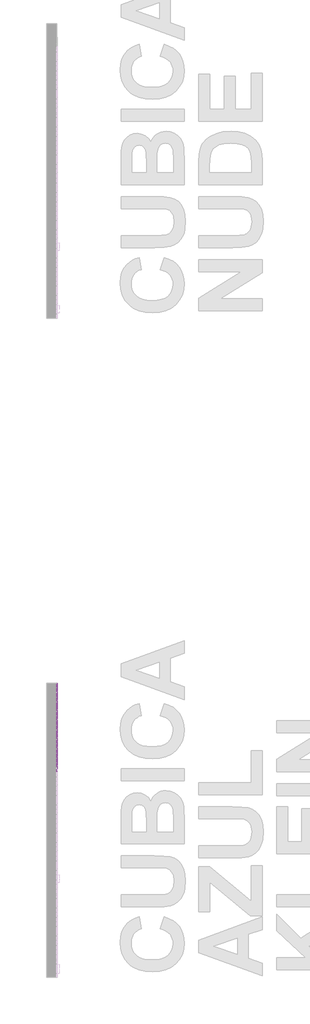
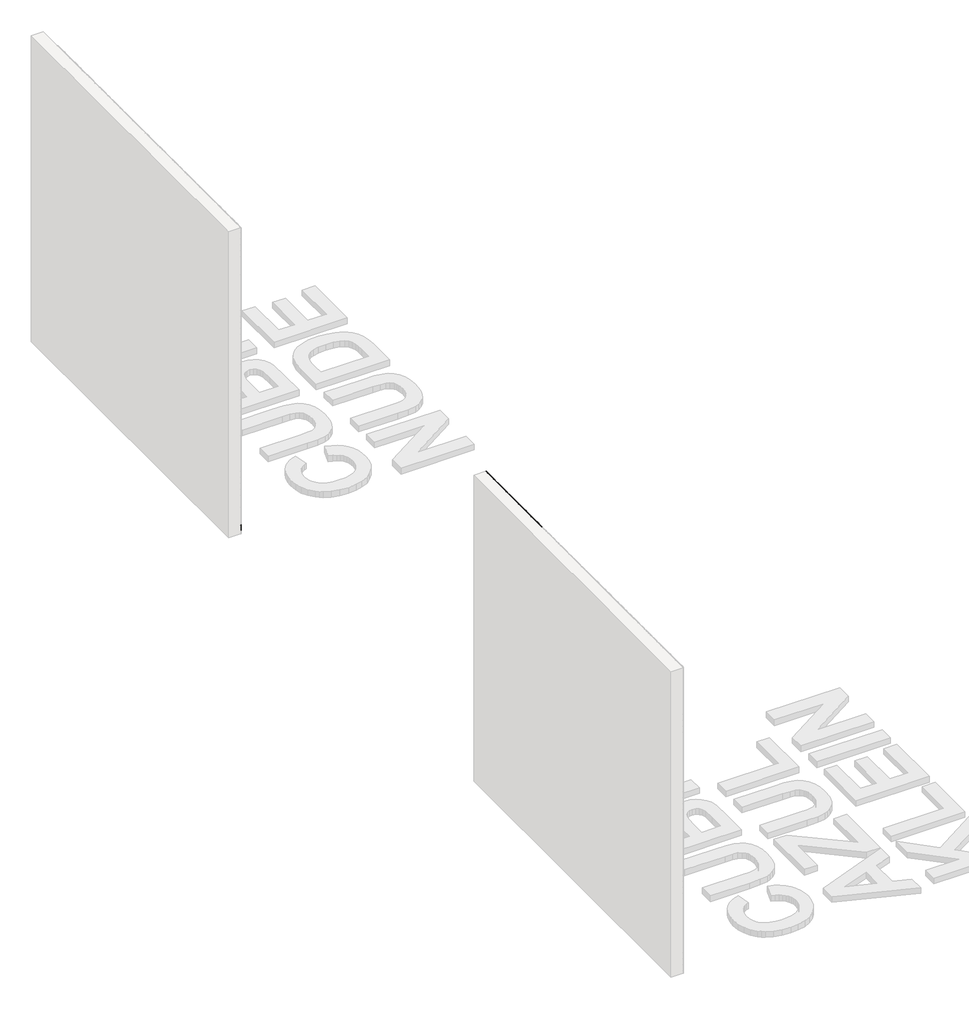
# One storey, part 48 of 121: 142 proxies.
"""IFC4 building model written with IfcOpenShell, lengths in millimetres."""

from ifc_helpers import new_model, si_unit, origin, place, context, project, spatial, transform, mapped, element, save
from components import generic_models_b2b2c5c1, generic_models_9bf73f6f, generic_models_5d175859, generic_models_65d4feed, generic_models_3c364290, generic_models_b652511d, generic_models_3c04e8e5, generic_models_b212a934, generic_models_61989c10, generic_models_7dea52c4, generic_models_39246dda, generic_models_336a48c1

model = new_model("IFC4")

# Units and contexts
model_context = context("Model", 3, world=origin())
ifc_project = project(units=[si_unit("LENGTHUNIT", "METRE", prefix="MILLI")], contexts=[model_context])

# Site, building, storey
site = spatial("IfcSite", under=ifc_project)
building = spatial("IfcBuilding", under=site)
storey = spatial("IfcBuildingStorey", under=building, Name="PORTOBELLO - SHOWROOM", Elevation=0.0)

# Proxies
placement = place(None, origin())
generic_models_shape = generic_models_b2b2c5c1(model_context)
element("IfcBuildingElementProxy", 1, Name="PBSHOP - CUBICA AZUL KLEIN 4,8X8,3 : CUBICA AZUL KLEIN - POSIÇÃO 01", ObjectType="PBSHOP - CUBICA AZUL KLEIN 4,8X8,3 : CUBICA AZUL KLEIN - POSIÇÃO 01", at=placement, inside=storey, context=model_context, shape_type="MappedRepresentation", body=[
    mapped(generic_models_shape, transform((150369.5341846, 2449.2080152, 2407.461318), x_axis=(0.0, 1.0, 0.0), y_axis=(0.0, 0.0, 1.0), z_axis=(1.0, 0.0, 0.0))),
])
element("IfcBuildingElementProxy", 2, Name="PBSHOP - CUBICA AZUL KLEIN 4,8X8,3 : CUBICA AZUL KLEIN - POSIÇÃO 01", ObjectType="PBSHOP - CUBICA AZUL KLEIN 4,8X8,3 : CUBICA AZUL KLEIN - POSIÇÃO 01", at=placement, inside=storey, context=model_context, shape_type="MappedRepresentation", body=[
    mapped(generic_models_shape, transform((150369.5341846, 2540.0472844, 2407.461318), x_axis=(0.0, 1.0, 0.0), y_axis=(0.0, 0.0, 1.0), z_axis=(1.0, 0.0, 0.0))),
])
element("IfcBuildingElementProxy", 3, Name="PBSHOP - CUBICA AZUL KLEIN 4,8X8,3 : CUBICA AZUL KLEIN - POSIÇÃO 01", ObjectType="PBSHOP - CUBICA AZUL KLEIN 4,8X8,3 : CUBICA AZUL KLEIN - POSIÇÃO 01", at=placement, inside=storey, context=model_context, shape_type="MappedRepresentation", body=[
    mapped(generic_models_shape, transform((150369.5341846, 2630.8865536, 2407.461318), x_axis=(0.0, 1.0, 0.0), y_axis=(0.0, 0.0, 1.0), z_axis=(1.0, 0.0, 0.0))),
])
element("IfcBuildingElementProxy", 4, Name="PBSHOP - CUBICA AZUL KLEIN 4,8X8,3 : CUBICA AZUL KLEIN - POSIÇÃO 01", ObjectType="PBSHOP - CUBICA AZUL KLEIN 4,8X8,3 : CUBICA AZUL KLEIN - POSIÇÃO 01", at=placement, inside=storey, context=model_context, shape_type="MappedRepresentation", body=[
    mapped(generic_models_shape, transform((150369.5341846, 2721.7258229, 2407.461318), x_axis=(0.0, 1.0, 0.0), y_axis=(0.0, 0.0, 1.0), z_axis=(1.0, 0.0, 0.0))),
])
element("IfcBuildingElementProxy", 5, Name="PBSHOP - CUBICA AZUL KLEIN 4,8X8,3 : CUBICA AZUL KLEIN - POSIÇÃO 01", ObjectType="PBSHOP - CUBICA AZUL KLEIN 4,8X8,3 : CUBICA AZUL KLEIN - POSIÇÃO 01", at=placement, inside=storey, context=model_context, shape_type="MappedRepresentation", body=[
    mapped(generic_models_shape, transform((150369.5341846, 2040.4313036, 2486.3959564), x_axis=(0.0, 1.0, 0.0), y_axis=(0.0, 0.0, 1.0), z_axis=(1.0, 0.0, 0.0))),
])
element("IfcBuildingElementProxy", 6, Name="PBSHOP - CUBICA AZUL KLEIN 4,8X8,3 : CUBICA AZUL KLEIN - POSIÇÃO 01", ObjectType="PBSHOP - CUBICA AZUL KLEIN 4,8X8,3 : CUBICA AZUL KLEIN - POSIÇÃO 01", at=placement, inside=storey, context=model_context, shape_type="MappedRepresentation", body=[
    mapped(generic_models_shape, transform((150369.5341846, 2131.2705728, 2486.3959564), x_axis=(0.0, 1.0, 0.0), y_axis=(0.0, 0.0, 1.0), z_axis=(1.0, 0.0, 0.0))),
])
element("IfcBuildingElementProxy", 7, Name="PBSHOP - CUBICA AZUL KLEIN 4,8X8,3 : CUBICA AZUL KLEIN - POSIÇÃO 01", ObjectType="PBSHOP - CUBICA AZUL KLEIN 4,8X8,3 : CUBICA AZUL KLEIN - POSIÇÃO 01", at=placement, inside=storey, context=model_context, shape_type="MappedRepresentation", body=[
    mapped(generic_models_shape, transform((150369.5341846, 2222.109842, 2486.3959564), x_axis=(0.0, 1.0, 0.0), y_axis=(0.0, 0.0, 1.0), z_axis=(1.0, 0.0, 0.0))),
])
element("IfcBuildingElementProxy", 8, Name="PBSHOP - CUBICA AZUL KLEIN 4,8X8,3 : CUBICA AZUL KLEIN - POSIÇÃO 01", ObjectType="PBSHOP - CUBICA AZUL KLEIN 4,8X8,3 : CUBICA AZUL KLEIN - POSIÇÃO 01", at=placement, inside=storey, context=model_context, shape_type="MappedRepresentation", body=[
    mapped(generic_models_shape, transform((150369.5341846, 2312.9491113, 2486.3959564), x_axis=(0.0, 1.0, 0.0), y_axis=(0.0, 0.0, 1.0), z_axis=(1.0, 0.0, 0.0))),
])
element("IfcBuildingElementProxy", 9, Name="PBSHOP - CUBICA AZUL KLEIN 4,8X8,3 : CUBICA AZUL KLEIN - POSIÇÃO 01", ObjectType="PBSHOP - CUBICA AZUL KLEIN 4,8X8,3 : CUBICA AZUL KLEIN - POSIÇÃO 01", at=placement, inside=storey, context=model_context, shape_type="MappedRepresentation", body=[
    mapped(generic_models_shape, transform((150369.5341846, 2403.7883805, 2486.3959564), x_axis=(0.0, 1.0, 0.0), y_axis=(0.0, 0.0, 1.0), z_axis=(1.0, 0.0, 0.0))),
])
element("IfcBuildingElementProxy", 10, Name="PBSHOP - CUBICA AZUL KLEIN 4,8X8,3 : CUBICA AZUL KLEIN - POSIÇÃO 01", ObjectType="PBSHOP - CUBICA AZUL KLEIN 4,8X8,3 : CUBICA AZUL KLEIN - POSIÇÃO 01", at=placement, inside=storey, context=model_context, shape_type="MappedRepresentation", body=[
    mapped(generic_models_shape, transform((150369.5341846, 2494.6276498, 2486.3959564), x_axis=(0.0, 1.0, 0.0), y_axis=(0.0, 0.0, 1.0), z_axis=(1.0, 0.0, 0.0))),
])
element("IfcBuildingElementProxy", 11, Name="PBSHOP - CUBICA AZUL KLEIN 4,8X8,3 : CUBICA AZUL KLEIN - POSIÇÃO 01", ObjectType="PBSHOP - CUBICA AZUL KLEIN 4,8X8,3 : CUBICA AZUL KLEIN - POSIÇÃO 01", at=placement, inside=storey, context=model_context, shape_type="MappedRepresentation", body=[
    mapped(generic_models_shape, transform((150369.5341846, 2585.466919, 2486.3959564), x_axis=(0.0, 1.0, 0.0), y_axis=(0.0, 0.0, 1.0), z_axis=(1.0, 0.0, 0.0))),
])
element("IfcBuildingElementProxy", 12, Name="PBSHOP - CUBICA AZUL KLEIN 4,8X8,3 : CUBICA AZUL KLEIN - POSIÇÃO 01", ObjectType="PBSHOP - CUBICA AZUL KLEIN 4,8X8,3 : CUBICA AZUL KLEIN - POSIÇÃO 01", at=placement, inside=storey, context=model_context, shape_type="MappedRepresentation", body=[
    mapped(generic_models_shape, transform((150369.5341846, 2676.3061883, 2486.3959564), x_axis=(0.0, 1.0, 0.0), y_axis=(0.0, 0.0, 1.0), z_axis=(1.0, 0.0, 0.0))),
])
element("IfcBuildingElementProxy", 13, Name="PBSHOP - CUBICA AZUL KLEIN 4,8X8,3 : CUBICA AZUL KLEIN - POSIÇÃO 01", ObjectType="PBSHOP - CUBICA AZUL KLEIN 4,8X8,3 : CUBICA AZUL KLEIN - POSIÇÃO 01", at=placement, inside=storey, context=model_context, shape_type="MappedRepresentation", body=[
    mapped(generic_models_shape, transform((150369.5341846, 2767.1454575, 2486.3959564), x_axis=(0.0, 1.0, 0.0), y_axis=(0.0, 0.0, 1.0), z_axis=(1.0, 0.0, 0.0))),
])
element("IfcBuildingElementProxy", 14, Name="PBSHOP - CUBICA AZUL KLEIN 4,8X8,3 : CUBICA AZUL KLEIN - POSIÇÃO 01", ObjectType="PBSHOP - CUBICA AZUL KLEIN 4,8X8,3 : CUBICA AZUL KLEIN - POSIÇÃO 01", at=placement, inside=storey, context=model_context, shape_type="MappedRepresentation", body=[
    mapped(generic_models_shape, transform((150369.5341846, 2085.8509382, 2565.3305948), x_axis=(0.0, 1.0, 0.0), y_axis=(0.0, 0.0, 1.0), z_axis=(1.0, 0.0, 0.0))),
])
element("IfcBuildingElementProxy", 15, Name="PBSHOP - CUBICA AZUL KLEIN 4,8X8,3 : CUBICA AZUL KLEIN - POSIÇÃO 01", ObjectType="PBSHOP - CUBICA AZUL KLEIN 4,8X8,3 : CUBICA AZUL KLEIN - POSIÇÃO 01", at=placement, inside=storey, context=model_context, shape_type="MappedRepresentation", body=[
    mapped(generic_models_shape, transform((150369.5341846, 2176.6902074, 2565.3305948), x_axis=(0.0, 1.0, 0.0), y_axis=(0.0, 0.0, 1.0), z_axis=(1.0, 0.0, 0.0))),
])
element("IfcBuildingElementProxy", 16, Name="PBSHOP - CUBICA AZUL KLEIN 4,8X8,3 : CUBICA AZUL KLEIN - POSIÇÃO 01", ObjectType="PBSHOP - CUBICA AZUL KLEIN 4,8X8,3 : CUBICA AZUL KLEIN - POSIÇÃO 01", at=placement, inside=storey, context=model_context, shape_type="MappedRepresentation", body=[
    mapped(generic_models_shape, transform((150369.5341846, 2267.5294767, 2565.3305948), x_axis=(0.0, 1.0, 0.0), y_axis=(0.0, 0.0, 1.0), z_axis=(1.0, 0.0, 0.0))),
])
element("IfcBuildingElementProxy", 17, Name="PBSHOP - CUBICA AZUL KLEIN 4,8X8,3 : CUBICA AZUL KLEIN - POSIÇÃO 01", ObjectType="PBSHOP - CUBICA AZUL KLEIN 4,8X8,3 : CUBICA AZUL KLEIN - POSIÇÃO 01", at=placement, inside=storey, context=model_context, shape_type="MappedRepresentation", body=[
    mapped(generic_models_shape, transform((150369.5341846, 2358.3687459, 2565.3305948), x_axis=(0.0, 1.0, 0.0), y_axis=(0.0, 0.0, 1.0), z_axis=(1.0, 0.0, 0.0))),
])
element("IfcBuildingElementProxy", 18, Name="PBSHOP - CUBICA AZUL KLEIN 4,8X8,3 : CUBICA AZUL KLEIN - POSIÇÃO 01", ObjectType="PBSHOP - CUBICA AZUL KLEIN 4,8X8,3 : CUBICA AZUL KLEIN - POSIÇÃO 01", at=placement, inside=storey, context=model_context, shape_type="MappedRepresentation", body=[
    mapped(generic_models_shape, transform((150369.5341846, 2449.2080152, 2565.3305948), x_axis=(0.0, 1.0, 0.0), y_axis=(0.0, 0.0, 1.0), z_axis=(1.0, 0.0, 0.0))),
])
element("IfcBuildingElementProxy", 19, Name="PBSHOP - CUBICA AZUL KLEIN 4,8X8,3 : CUBICA AZUL KLEIN - POSIÇÃO 01", ObjectType="PBSHOP - CUBICA AZUL KLEIN 4,8X8,3 : CUBICA AZUL KLEIN - POSIÇÃO 01", at=placement, inside=storey, context=model_context, shape_type="MappedRepresentation", body=[
    mapped(generic_models_shape, transform((150369.5341846, 2540.0472844, 2565.3305948), x_axis=(0.0, 1.0, 0.0), y_axis=(0.0, 0.0, 1.0), z_axis=(1.0, 0.0, 0.0))),
])
element("IfcBuildingElementProxy", 20, Name="PBSHOP - CUBICA AZUL KLEIN 4,8X8,3 : CUBICA AZUL KLEIN - POSIÇÃO 01", ObjectType="PBSHOP - CUBICA AZUL KLEIN 4,8X8,3 : CUBICA AZUL KLEIN - POSIÇÃO 01", at=placement, inside=storey, context=model_context, shape_type="MappedRepresentation", body=[
    mapped(generic_models_shape, transform((150369.5341846, 2630.8865536, 2565.3305948), x_axis=(0.0, 1.0, 0.0), y_axis=(0.0, 0.0, 1.0), z_axis=(1.0, 0.0, 0.0))),
])
element("IfcBuildingElementProxy", 21, Name="PBSHOP - CUBICA AZUL KLEIN 4,8X8,3 : CUBICA AZUL KLEIN - POSIÇÃO 01", ObjectType="PBSHOP - CUBICA AZUL KLEIN 4,8X8,3 : CUBICA AZUL KLEIN - POSIÇÃO 01", at=placement, inside=storey, context=model_context, shape_type="MappedRepresentation", body=[
    mapped(generic_models_shape, transform((150369.5341846, 2721.7258229, 2565.3305948), x_axis=(0.0, 1.0, 0.0), y_axis=(0.0, 0.0, 1.0), z_axis=(1.0, 0.0, 0.0))),
])
element("IfcBuildingElementProxy", 22, Name="PBSHOP - CUBICA AZUL KLEIN 4,8X8,3 : CUBICA AZUL KLEIN - POSIÇÃO 01", ObjectType="PBSHOP - CUBICA AZUL KLEIN 4,8X8,3 : CUBICA AZUL KLEIN - POSIÇÃO 01", at=placement, inside=storey, context=model_context, shape_type="MappedRepresentation", body=[
    mapped(generic_models_shape, transform((150369.5341846, 2040.4313036, 2644.2652332), x_axis=(0.0, 1.0, 0.0), y_axis=(0.0, 0.0, 1.0), z_axis=(1.0, 0.0, 0.0))),
])
element("IfcBuildingElementProxy", 23, Name="PBSHOP - CUBICA AZUL KLEIN 4,8X8,3 : CUBICA AZUL KLEIN - POSIÇÃO 01", ObjectType="PBSHOP - CUBICA AZUL KLEIN 4,8X8,3 : CUBICA AZUL KLEIN - POSIÇÃO 01", at=placement, inside=storey, context=model_context, shape_type="MappedRepresentation", body=[
    mapped(generic_models_shape, transform((150369.5341846, 2131.2705728, 2644.2652332), x_axis=(0.0, 1.0, 0.0), y_axis=(0.0, 0.0, 1.0), z_axis=(1.0, 0.0, 0.0))),
])
element("IfcBuildingElementProxy", 24, Name="PBSHOP - CUBICA AZUL KLEIN 4,8X8,3 : CUBICA AZUL KLEIN - POSIÇÃO 01", ObjectType="PBSHOP - CUBICA AZUL KLEIN 4,8X8,3 : CUBICA AZUL KLEIN - POSIÇÃO 01", at=placement, inside=storey, context=model_context, shape_type="MappedRepresentation", body=[
    mapped(generic_models_shape, transform((150369.5341846, 2222.109842, 2644.2652332), x_axis=(0.0, 1.0, 0.0), y_axis=(0.0, 0.0, 1.0), z_axis=(1.0, 0.0, 0.0))),
])
element("IfcBuildingElementProxy", 25, Name="PBSHOP - CUBICA AZUL KLEIN 4,8X8,3 : CUBICA AZUL KLEIN - POSIÇÃO 01", ObjectType="PBSHOP - CUBICA AZUL KLEIN 4,8X8,3 : CUBICA AZUL KLEIN - POSIÇÃO 01", at=placement, inside=storey, context=model_context, shape_type="MappedRepresentation", body=[
    mapped(generic_models_shape, transform((150369.5341846, 2312.9491113, 2644.2652332), x_axis=(0.0, 1.0, 0.0), y_axis=(0.0, 0.0, 1.0), z_axis=(1.0, 0.0, 0.0))),
])
element("IfcBuildingElementProxy", 26, Name="PBSHOP - CUBICA AZUL KLEIN 4,8X8,3 : CUBICA AZUL KLEIN - POSIÇÃO 01", ObjectType="PBSHOP - CUBICA AZUL KLEIN 4,8X8,3 : CUBICA AZUL KLEIN - POSIÇÃO 01", at=placement, inside=storey, context=model_context, shape_type="MappedRepresentation", body=[
    mapped(generic_models_shape, transform((150369.5341846, 2403.7883805, 2644.2652332), x_axis=(0.0, 1.0, 0.0), y_axis=(0.0, 0.0, 1.0), z_axis=(1.0, 0.0, 0.0))),
])
element("IfcBuildingElementProxy", 27, Name="PBSHOP - CUBICA AZUL KLEIN 4,8X8,3 : CUBICA AZUL KLEIN - POSIÇÃO 01", ObjectType="PBSHOP - CUBICA AZUL KLEIN 4,8X8,3 : CUBICA AZUL KLEIN - POSIÇÃO 01", at=placement, inside=storey, context=model_context, shape_type="MappedRepresentation", body=[
    mapped(generic_models_shape, transform((150369.5341846, 2494.6276498, 2644.2652332), x_axis=(0.0, 1.0, 0.0), y_axis=(0.0, 0.0, 1.0), z_axis=(1.0, 0.0, 0.0))),
])
element("IfcBuildingElementProxy", 28, Name="PBSHOP - CUBICA AZUL KLEIN 4,8X8,3 : CUBICA AZUL KLEIN - POSIÇÃO 01", ObjectType="PBSHOP - CUBICA AZUL KLEIN 4,8X8,3 : CUBICA AZUL KLEIN - POSIÇÃO 01", at=placement, inside=storey, context=model_context, shape_type="MappedRepresentation", body=[
    mapped(generic_models_shape, transform((150369.5341846, 2585.466919, 2644.2652332), x_axis=(0.0, 1.0, 0.0), y_axis=(0.0, 0.0, 1.0), z_axis=(1.0, 0.0, 0.0))),
])
element("IfcBuildingElementProxy", 29, Name="PBSHOP - CUBICA AZUL KLEIN 4,8X8,3 : CUBICA AZUL KLEIN - POSIÇÃO 01", ObjectType="PBSHOP - CUBICA AZUL KLEIN 4,8X8,3 : CUBICA AZUL KLEIN - POSIÇÃO 01", at=placement, inside=storey, context=model_context, shape_type="MappedRepresentation", body=[
    mapped(generic_models_shape, transform((150369.5341846, 2676.3061883, 2644.2652332), x_axis=(0.0, 1.0, 0.0), y_axis=(0.0, 0.0, 1.0), z_axis=(1.0, 0.0, 0.0))),
])
element("IfcBuildingElementProxy", 30, Name="PBSHOP - CUBICA AZUL KLEIN 4,8X8,3 : CUBICA AZUL KLEIN - POSIÇÃO 01", ObjectType="PBSHOP - CUBICA AZUL KLEIN 4,8X8,3 : CUBICA AZUL KLEIN - POSIÇÃO 01", at=placement, inside=storey, context=model_context, shape_type="MappedRepresentation", body=[
    mapped(generic_models_shape, transform((150369.5341846, 2767.1454575, 2644.2652332), x_axis=(0.0, 1.0, 0.0), y_axis=(0.0, 0.0, 1.0), z_axis=(1.0, 0.0, 0.0))),
])
generic_models_2_shape = generic_models_9bf73f6f(model_context)
element("IfcBuildingElementProxy", 31, Name="PBSHOP - CUBICA AZUL KLEIN 4,8X8,3 : CUBICA AZUL KLEIN - POSIÇÃO 03", ObjectType="PBSHOP - CUBICA AZUL KLEIN 4,8X8,3 : CUBICA AZUL KLEIN - POSIÇÃO 03", at=placement, inside=storey, context=model_context, shape_type="MappedRepresentation", body=[
    mapped(generic_models_2_shape, transform((150369.5341846, 2063.14328, 2367.9527884), x_axis=(0.0, 1.0, 0.0), y_axis=(0.0, 0.0, 1.0), z_axis=(1.0, 0.0, 0.0))),
])
element("IfcBuildingElementProxy", 32, Name="PBSHOP - CUBICA AZUL KLEIN 4,8X8,3 : CUBICA AZUL KLEIN - POSIÇÃO 03", ObjectType="PBSHOP - CUBICA AZUL KLEIN 4,8X8,3 : CUBICA AZUL KLEIN - POSIÇÃO 03", at=placement, inside=storey, context=model_context, shape_type="MappedRepresentation", body=[
    mapped(generic_models_2_shape, transform((150369.5341846, 2153.9825493, 2367.9527884), x_axis=(0.0, 1.0, 0.0), y_axis=(0.0, 0.0, 1.0), z_axis=(1.0, 0.0, 0.0))),
])
element("IfcBuildingElementProxy", 33, Name="PBSHOP - CUBICA AZUL KLEIN 4,8X8,3 : CUBICA AZUL KLEIN - POSIÇÃO 03", ObjectType="PBSHOP - CUBICA AZUL KLEIN 4,8X8,3 : CUBICA AZUL KLEIN - POSIÇÃO 03", at=placement, inside=storey, context=model_context, shape_type="MappedRepresentation", body=[
    mapped(generic_models_2_shape, transform((150369.5341846, 2244.8218185, 2367.9527884), x_axis=(0.0, 1.0, 0.0), y_axis=(0.0, 0.0, 1.0), z_axis=(1.0, 0.0, 0.0))),
])
element("IfcBuildingElementProxy", 34, Name="PBSHOP - CUBICA AZUL KLEIN 4,8X8,3 : CUBICA AZUL KLEIN - POSIÇÃO 03", ObjectType="PBSHOP - CUBICA AZUL KLEIN 4,8X8,3 : CUBICA AZUL KLEIN - POSIÇÃO 03", at=placement, inside=storey, context=model_context, shape_type="MappedRepresentation", body=[
    mapped(generic_models_2_shape, transform((150369.5341846, 2335.6610878, 2367.9527884), x_axis=(0.0, 1.0, 0.0), y_axis=(0.0, 0.0, 1.0), z_axis=(1.0, 0.0, 0.0))),
])
element("IfcBuildingElementProxy", 35, Name="PBSHOP - CUBICA AZUL KLEIN 4,8X8,3 : CUBICA AZUL KLEIN - POSIÇÃO 03", ObjectType="PBSHOP - CUBICA AZUL KLEIN 4,8X8,3 : CUBICA AZUL KLEIN - POSIÇÃO 03", at=placement, inside=storey, context=model_context, shape_type="MappedRepresentation", body=[
    mapped(generic_models_2_shape, transform((150369.5341846, 2426.500357, 2367.9527884), x_axis=(0.0, 1.0, 0.0), y_axis=(0.0, 0.0, 1.0), z_axis=(1.0, 0.0, 0.0))),
])
element("IfcBuildingElementProxy", 36, Name="PBSHOP - CUBICA AZUL KLEIN 4,8X8,3 : CUBICA AZUL KLEIN - POSIÇÃO 03", ObjectType="PBSHOP - CUBICA AZUL KLEIN 4,8X8,3 : CUBICA AZUL KLEIN - POSIÇÃO 03", at=placement, inside=storey, context=model_context, shape_type="MappedRepresentation", body=[
    mapped(generic_models_2_shape, transform((150369.5341846, 2517.3396263, 2367.9527884), x_axis=(0.0, 1.0, 0.0), y_axis=(0.0, 0.0, 1.0), z_axis=(1.0, 0.0, 0.0))),
])
element("IfcBuildingElementProxy", 37, Name="PBSHOP - CUBICA AZUL KLEIN 4,8X8,3 : CUBICA AZUL KLEIN - POSIÇÃO 03", ObjectType="PBSHOP - CUBICA AZUL KLEIN 4,8X8,3 : CUBICA AZUL KLEIN - POSIÇÃO 03", at=placement, inside=storey, context=model_context, shape_type="MappedRepresentation", body=[
    mapped(generic_models_2_shape, transform((150369.5341846, 2608.1788955, 2367.9527884), x_axis=(0.0, 1.0, 0.0), y_axis=(0.0, 0.0, 1.0), z_axis=(1.0, 0.0, 0.0))),
])
element("IfcBuildingElementProxy", 38, Name="PBSHOP - CUBICA AZUL KLEIN 4,8X8,3 : CUBICA AZUL KLEIN - POSIÇÃO 03", ObjectType="PBSHOP - CUBICA AZUL KLEIN 4,8X8,3 : CUBICA AZUL KLEIN - POSIÇÃO 03", at=placement, inside=storey, context=model_context, shape_type="MappedRepresentation", body=[
    mapped(generic_models_2_shape, transform((150369.5341846, 2699.0181647, 2367.9527884), x_axis=(0.0, 1.0, 0.0), y_axis=(0.0, 0.0, 1.0), z_axis=(1.0, 0.0, 0.0))),
])
element("IfcBuildingElementProxy", 39, Name="PBSHOP - CUBICA AZUL KLEIN 4,8X8,3 : CUBICA AZUL KLEIN - POSIÇÃO 03", ObjectType="PBSHOP - CUBICA AZUL KLEIN 4,8X8,3 : CUBICA AZUL KLEIN - POSIÇÃO 03", at=placement, inside=storey, context=model_context, shape_type="MappedRepresentation", body=[
    mapped(generic_models_2_shape, transform((150369.5341846, 2017.7236454, 2446.8874268), x_axis=(0.0, 1.0, 0.0), y_axis=(0.0, 0.0, 1.0), z_axis=(1.0, 0.0, 0.0))),
])
element("IfcBuildingElementProxy", 40, Name="PBSHOP - CUBICA AZUL KLEIN 4,8X8,3 : CUBICA AZUL KLEIN - POSIÇÃO 03", ObjectType="PBSHOP - CUBICA AZUL KLEIN 4,8X8,3 : CUBICA AZUL KLEIN - POSIÇÃO 03", at=placement, inside=storey, context=model_context, shape_type="MappedRepresentation", body=[
    mapped(generic_models_2_shape, transform((150369.5341846, 2108.5629147, 2446.8874268), x_axis=(0.0, 1.0, 0.0), y_axis=(0.0, 0.0, 1.0), z_axis=(1.0, 0.0, 0.0))),
])
element("IfcBuildingElementProxy", 41, Name="PBSHOP - CUBICA AZUL KLEIN 4,8X8,3 : CUBICA AZUL KLEIN - POSIÇÃO 03", ObjectType="PBSHOP - CUBICA AZUL KLEIN 4,8X8,3 : CUBICA AZUL KLEIN - POSIÇÃO 03", at=placement, inside=storey, context=model_context, shape_type="MappedRepresentation", body=[
    mapped(generic_models_2_shape, transform((150369.5341846, 2199.4021839, 2446.8874268), x_axis=(0.0, 1.0, 0.0), y_axis=(0.0, 0.0, 1.0), z_axis=(1.0, 0.0, 0.0))),
])
element("IfcBuildingElementProxy", 42, Name="PBSHOP - CUBICA AZUL KLEIN 4,8X8,3 : CUBICA AZUL KLEIN - POSIÇÃO 03", ObjectType="PBSHOP - CUBICA AZUL KLEIN 4,8X8,3 : CUBICA AZUL KLEIN - POSIÇÃO 03", at=placement, inside=storey, context=model_context, shape_type="MappedRepresentation", body=[
    mapped(generic_models_2_shape, transform((150369.5341846, 2290.2414531, 2446.8874268), x_axis=(0.0, 1.0, 0.0), y_axis=(0.0, 0.0, 1.0), z_axis=(1.0, 0.0, 0.0))),
])
element("IfcBuildingElementProxy", 43, Name="PBSHOP - CUBICA AZUL KLEIN 4,8X8,3 : CUBICA AZUL KLEIN - POSIÇÃO 03", ObjectType="PBSHOP - CUBICA AZUL KLEIN 4,8X8,3 : CUBICA AZUL KLEIN - POSIÇÃO 03", at=placement, inside=storey, context=model_context, shape_type="MappedRepresentation", body=[
    mapped(generic_models_2_shape, transform((150369.5341846, 2381.0807224, 2446.8874268), x_axis=(0.0, 1.0, 0.0), y_axis=(0.0, 0.0, 1.0), z_axis=(1.0, 0.0, 0.0))),
])
element("IfcBuildingElementProxy", 44, Name="PBSHOP - CUBICA AZUL KLEIN 4,8X8,3 : CUBICA AZUL KLEIN - POSIÇÃO 03", ObjectType="PBSHOP - CUBICA AZUL KLEIN 4,8X8,3 : CUBICA AZUL KLEIN - POSIÇÃO 03", at=placement, inside=storey, context=model_context, shape_type="MappedRepresentation", body=[
    mapped(generic_models_2_shape, transform((150369.5341846, 2471.9199916, 2446.8874268), x_axis=(0.0, 1.0, 0.0), y_axis=(0.0, 0.0, 1.0), z_axis=(1.0, 0.0, 0.0))),
])
element("IfcBuildingElementProxy", 45, Name="PBSHOP - CUBICA AZUL KLEIN 4,8X8,3 : CUBICA AZUL KLEIN - POSIÇÃO 03", ObjectType="PBSHOP - CUBICA AZUL KLEIN 4,8X8,3 : CUBICA AZUL KLEIN - POSIÇÃO 03", at=placement, inside=storey, context=model_context, shape_type="MappedRepresentation", body=[
    mapped(generic_models_2_shape, transform((150369.5341846, 2562.7592609, 2446.8874268), x_axis=(0.0, 1.0, 0.0), y_axis=(0.0, 0.0, 1.0), z_axis=(1.0, 0.0, 0.0))),
])
element("IfcBuildingElementProxy", 46, Name="PBSHOP - CUBICA AZUL KLEIN 4,8X8,3 : CUBICA AZUL KLEIN - POSIÇÃO 03", ObjectType="PBSHOP - CUBICA AZUL KLEIN 4,8X8,3 : CUBICA AZUL KLEIN - POSIÇÃO 03", at=placement, inside=storey, context=model_context, shape_type="MappedRepresentation", body=[
    mapped(generic_models_2_shape, transform((150369.5341846, 2653.5985301, 2446.8874268), x_axis=(0.0, 1.0, 0.0), y_axis=(0.0, 0.0, 1.0), z_axis=(1.0, 0.0, 0.0))),
])
element("IfcBuildingElementProxy", 47, Name="PBSHOP - CUBICA AZUL KLEIN 4,8X8,3 : CUBICA AZUL KLEIN - POSIÇÃO 03", ObjectType="PBSHOP - CUBICA AZUL KLEIN 4,8X8,3 : CUBICA AZUL KLEIN - POSIÇÃO 03", at=placement, inside=storey, context=model_context, shape_type="MappedRepresentation", body=[
    mapped(generic_models_2_shape, transform((150369.5341846, 2744.4377994, 2446.8874268), x_axis=(0.0, 1.0, 0.0), y_axis=(0.0, 0.0, 1.0), z_axis=(1.0, 0.0, 0.0))),
])
element("IfcBuildingElementProxy", 48, Name="PBSHOP - CUBICA AZUL KLEIN 4,8X8,3 : CUBICA AZUL KLEIN - POSIÇÃO 03", ObjectType="PBSHOP - CUBICA AZUL KLEIN 4,8X8,3 : CUBICA AZUL KLEIN - POSIÇÃO 03", at=placement, inside=storey, context=model_context, shape_type="MappedRepresentation", body=[
    mapped(generic_models_2_shape, transform((150369.5341846, 2063.14328, 2525.8220652), x_axis=(0.0, 1.0, 0.0), y_axis=(0.0, 0.0, 1.0), z_axis=(1.0, 0.0, 0.0))),
])
element("IfcBuildingElementProxy", 49, Name="PBSHOP - CUBICA AZUL KLEIN 4,8X8,3 : CUBICA AZUL KLEIN - POSIÇÃO 03", ObjectType="PBSHOP - CUBICA AZUL KLEIN 4,8X8,3 : CUBICA AZUL KLEIN - POSIÇÃO 03", at=placement, inside=storey, context=model_context, shape_type="MappedRepresentation", body=[
    mapped(generic_models_2_shape, transform((150369.5341846, 2153.9825493, 2525.8220652), x_axis=(0.0, 1.0, 0.0), y_axis=(0.0, 0.0, 1.0), z_axis=(1.0, 0.0, 0.0))),
])
element("IfcBuildingElementProxy", 50, Name="PBSHOP - CUBICA AZUL KLEIN 4,8X8,3 : CUBICA AZUL KLEIN - POSIÇÃO 03", ObjectType="PBSHOP - CUBICA AZUL KLEIN 4,8X8,3 : CUBICA AZUL KLEIN - POSIÇÃO 03", at=placement, inside=storey, context=model_context, shape_type="MappedRepresentation", body=[
    mapped(generic_models_2_shape, transform((150369.5341846, 2244.8218185, 2525.8220652), x_axis=(0.0, 1.0, 0.0), y_axis=(0.0, 0.0, 1.0), z_axis=(1.0, 0.0, 0.0))),
])
element("IfcBuildingElementProxy", 51, Name="PBSHOP - CUBICA AZUL KLEIN 4,8X8,3 : CUBICA AZUL KLEIN - POSIÇÃO 03", ObjectType="PBSHOP - CUBICA AZUL KLEIN 4,8X8,3 : CUBICA AZUL KLEIN - POSIÇÃO 03", at=placement, inside=storey, context=model_context, shape_type="MappedRepresentation", body=[
    mapped(generic_models_2_shape, transform((150369.5341846, 2335.6610878, 2525.8220652), x_axis=(0.0, 1.0, 0.0), y_axis=(0.0, 0.0, 1.0), z_axis=(1.0, 0.0, 0.0))),
])
element("IfcBuildingElementProxy", 52, Name="PBSHOP - CUBICA AZUL KLEIN 4,8X8,3 : CUBICA AZUL KLEIN - POSIÇÃO 03", ObjectType="PBSHOP - CUBICA AZUL KLEIN 4,8X8,3 : CUBICA AZUL KLEIN - POSIÇÃO 03", at=placement, inside=storey, context=model_context, shape_type="MappedRepresentation", body=[
    mapped(generic_models_2_shape, transform((150369.5341846, 2426.500357, 2525.8220652), x_axis=(0.0, 1.0, 0.0), y_axis=(0.0, 0.0, 1.0), z_axis=(1.0, 0.0, 0.0))),
])
element("IfcBuildingElementProxy", 53, Name="PBSHOP - CUBICA AZUL KLEIN 4,8X8,3 : CUBICA AZUL KLEIN - POSIÇÃO 03", ObjectType="PBSHOP - CUBICA AZUL KLEIN 4,8X8,3 : CUBICA AZUL KLEIN - POSIÇÃO 03", at=placement, inside=storey, context=model_context, shape_type="MappedRepresentation", body=[
    mapped(generic_models_2_shape, transform((150369.5341846, 2517.3396263, 2525.8220652), x_axis=(0.0, 1.0, 0.0), y_axis=(0.0, 0.0, 1.0), z_axis=(1.0, 0.0, 0.0))),
])
element("IfcBuildingElementProxy", 54, Name="PBSHOP - CUBICA AZUL KLEIN 4,8X8,3 : CUBICA AZUL KLEIN - POSIÇÃO 03", ObjectType="PBSHOP - CUBICA AZUL KLEIN 4,8X8,3 : CUBICA AZUL KLEIN - POSIÇÃO 03", at=placement, inside=storey, context=model_context, shape_type="MappedRepresentation", body=[
    mapped(generic_models_2_shape, transform((150369.5341846, 2608.1788955, 2525.8220652), x_axis=(0.0, 1.0, 0.0), y_axis=(0.0, 0.0, 1.0), z_axis=(1.0, 0.0, 0.0))),
])
element("IfcBuildingElementProxy", 55, Name="PBSHOP - CUBICA AZUL KLEIN 4,8X8,3 : CUBICA AZUL KLEIN - POSIÇÃO 03", ObjectType="PBSHOP - CUBICA AZUL KLEIN 4,8X8,3 : CUBICA AZUL KLEIN - POSIÇÃO 03", at=placement, inside=storey, context=model_context, shape_type="MappedRepresentation", body=[
    mapped(generic_models_2_shape, transform((150369.5341846, 2699.0181647, 2525.8220652), x_axis=(0.0, 1.0, 0.0), y_axis=(0.0, 0.0, 1.0), z_axis=(1.0, 0.0, 0.0))),
])
element("IfcBuildingElementProxy", 56, Name="PBSHOP - CUBICA AZUL KLEIN 4,8X8,3 : CUBICA AZUL KLEIN - POSIÇÃO 03", ObjectType="PBSHOP - CUBICA AZUL KLEIN 4,8X8,3 : CUBICA AZUL KLEIN - POSIÇÃO 03", at=placement, inside=storey, context=model_context, shape_type="MappedRepresentation", body=[
    mapped(generic_models_2_shape, transform((150369.5341846, 2017.7236454, 2604.7567035), x_axis=(0.0, 1.0, 0.0), y_axis=(0.0, 0.0, 1.0), z_axis=(1.0, 0.0, 0.0))),
])
element("IfcBuildingElementProxy", 57, Name="PBSHOP - CUBICA AZUL KLEIN 4,8X8,3 : CUBICA AZUL KLEIN - POSIÇÃO 03", ObjectType="PBSHOP - CUBICA AZUL KLEIN 4,8X8,3 : CUBICA AZUL KLEIN - POSIÇÃO 03", at=placement, inside=storey, context=model_context, shape_type="MappedRepresentation", body=[
    mapped(generic_models_2_shape, transform((150369.5341846, 2108.5629147, 2604.7567035), x_axis=(0.0, 1.0, 0.0), y_axis=(0.0, 0.0, 1.0), z_axis=(1.0, 0.0, 0.0))),
])
element("IfcBuildingElementProxy", 58, Name="PBSHOP - CUBICA AZUL KLEIN 4,8X8,3 : CUBICA AZUL KLEIN - POSIÇÃO 03", ObjectType="PBSHOP - CUBICA AZUL KLEIN 4,8X8,3 : CUBICA AZUL KLEIN - POSIÇÃO 03", at=placement, inside=storey, context=model_context, shape_type="MappedRepresentation", body=[
    mapped(generic_models_2_shape, transform((150369.5341846, 2199.4021839, 2604.7567035), x_axis=(0.0, 1.0, 0.0), y_axis=(0.0, 0.0, 1.0), z_axis=(1.0, 0.0, 0.0))),
])
element("IfcBuildingElementProxy", 59, Name="PBSHOP - CUBICA AZUL KLEIN 4,8X8,3 : CUBICA AZUL KLEIN - POSIÇÃO 03", ObjectType="PBSHOP - CUBICA AZUL KLEIN 4,8X8,3 : CUBICA AZUL KLEIN - POSIÇÃO 03", at=placement, inside=storey, context=model_context, shape_type="MappedRepresentation", body=[
    mapped(generic_models_2_shape, transform((150369.5341846, 2290.2414531, 2604.7567035), x_axis=(0.0, 1.0, 0.0), y_axis=(0.0, 0.0, 1.0), z_axis=(1.0, 0.0, 0.0))),
])
element("IfcBuildingElementProxy", 60, Name="PBSHOP - CUBICA AZUL KLEIN 4,8X8,3 : CUBICA AZUL KLEIN - POSIÇÃO 03", ObjectType="PBSHOP - CUBICA AZUL KLEIN 4,8X8,3 : CUBICA AZUL KLEIN - POSIÇÃO 03", at=placement, inside=storey, context=model_context, shape_type="MappedRepresentation", body=[
    mapped(generic_models_2_shape, transform((150369.5341846, 2381.0807224, 2604.7567035), x_axis=(0.0, 1.0, 0.0), y_axis=(0.0, 0.0, 1.0), z_axis=(1.0, 0.0, 0.0))),
])
element("IfcBuildingElementProxy", 61, Name="PBSHOP - CUBICA AZUL KLEIN 4,8X8,3 : CUBICA AZUL KLEIN - POSIÇÃO 03", ObjectType="PBSHOP - CUBICA AZUL KLEIN 4,8X8,3 : CUBICA AZUL KLEIN - POSIÇÃO 03", at=placement, inside=storey, context=model_context, shape_type="MappedRepresentation", body=[
    mapped(generic_models_2_shape, transform((150369.5341846, 2471.9199916, 2604.7567035), x_axis=(0.0, 1.0, 0.0), y_axis=(0.0, 0.0, 1.0), z_axis=(1.0, 0.0, 0.0))),
])
element("IfcBuildingElementProxy", 62, Name="PBSHOP - CUBICA AZUL KLEIN 4,8X8,3 : CUBICA AZUL KLEIN - POSIÇÃO 03", ObjectType="PBSHOP - CUBICA AZUL KLEIN 4,8X8,3 : CUBICA AZUL KLEIN - POSIÇÃO 03", at=placement, inside=storey, context=model_context, shape_type="MappedRepresentation", body=[
    mapped(generic_models_2_shape, transform((150369.5341846, 2562.7592609, 2604.7567035), x_axis=(0.0, 1.0, 0.0), y_axis=(0.0, 0.0, 1.0), z_axis=(1.0, 0.0, 0.0))),
])
element("IfcBuildingElementProxy", 63, Name="PBSHOP - CUBICA AZUL KLEIN 4,8X8,3 : CUBICA AZUL KLEIN - POSIÇÃO 03", ObjectType="PBSHOP - CUBICA AZUL KLEIN 4,8X8,3 : CUBICA AZUL KLEIN - POSIÇÃO 03", at=placement, inside=storey, context=model_context, shape_type="MappedRepresentation", body=[
    mapped(generic_models_2_shape, transform((150369.5341846, 2653.5985301, 2604.7567035), x_axis=(0.0, 1.0, 0.0), y_axis=(0.0, 0.0, 1.0), z_axis=(1.0, 0.0, 0.0))),
])
element("IfcBuildingElementProxy", 64, Name="PBSHOP - CUBICA AZUL KLEIN 4,8X8,3 : CUBICA AZUL KLEIN - POSIÇÃO 03", ObjectType="PBSHOP - CUBICA AZUL KLEIN 4,8X8,3 : CUBICA AZUL KLEIN - POSIÇÃO 03", at=placement, inside=storey, context=model_context, shape_type="MappedRepresentation", body=[
    mapped(generic_models_2_shape, transform((150369.5341846, 2744.4377994, 2604.7567035), x_axis=(0.0, 1.0, 0.0), y_axis=(0.0, 0.0, 1.0), z_axis=(1.0, 0.0, 0.0))),
])
element("IfcBuildingElementProxy", 65, Name="PBSHOP - CUBICA NUDE 4,8X8,3 : CUBICA NUDE - POSIÇÃO 01", ObjectType="PBSHOP - CUBICA NUDE 4,8X8,3 : CUBICA NUDE - POSIÇÃO 01", at=placement, inside=storey, context=model_context, shape_type="MappedRepresentation", body=[
    mapped(generic_models_shape, transform((150369.5341846, 6396.5477456, 39.4221668), x_axis=(0.0, 1.0, 0.0), y_axis=(0.0, 0.0, 1.0), z_axis=(1.0, 0.0, 0.0))),
])
element("IfcBuildingElementProxy", 66, Name="PBSHOP - CUBICA NUDE 4,8X8,3 : CUBICA NUDE - POSIÇÃO 01", ObjectType="PBSHOP - CUBICA NUDE 4,8X8,3 : CUBICA NUDE - POSIÇÃO 01", at=placement, inside=storey, context=model_context, shape_type="MappedRepresentation", body=[
    mapped(generic_models_shape, transform((150369.5341846, 6487.3870148, 39.4221668), x_axis=(0.0, 1.0, 0.0), y_axis=(0.0, 0.0, 1.0), z_axis=(1.0, 0.0, 0.0))),
])
element("IfcBuildingElementProxy", 67, Name="PBSHOP - CUBICA NUDE 4,8X8,3 : CUBICA NUDE - POSIÇÃO 01", ObjectType="PBSHOP - CUBICA NUDE 4,8X8,3 : CUBICA NUDE - POSIÇÃO 01", at=placement, inside=storey, context=model_context, shape_type="MappedRepresentation", body=[
    mapped(generic_models_shape, transform((150369.5341846, 6578.2262841, 39.4221668), x_axis=(0.0, 1.0, 0.0), y_axis=(0.0, 0.0, 1.0), z_axis=(1.0, 0.0, 0.0))),
])
element("IfcBuildingElementProxy", 68, Name="PBSHOP - CUBICA NUDE 4,8X8,3 : CUBICA NUDE - POSIÇÃO 01", ObjectType="PBSHOP - CUBICA NUDE 4,8X8,3 : CUBICA NUDE - POSIÇÃO 01", at=placement, inside=storey, context=model_context, shape_type="MappedRepresentation", body=[
    mapped(generic_models_shape, transform((150369.5341846, 6669.0655533, 39.4221668), x_axis=(0.0, 1.0, 0.0), y_axis=(0.0, 0.0, 1.0), z_axis=(1.0, 0.0, 0.0))),
])
element("IfcBuildingElementProxy", 69, Name="PBSHOP - CUBICA NUDE 4,8X8,3 : CUBICA NUDE - POSIÇÃO 01", ObjectType="PBSHOP - CUBICA NUDE 4,8X8,3 : CUBICA NUDE - POSIÇÃO 01", at=placement, inside=storey, context=model_context, shape_type="MappedRepresentation", body=[
    mapped(generic_models_shape, transform((150369.5341846, 6759.9048225, 39.4221668), x_axis=(0.0, 1.0, 0.0), y_axis=(0.0, 0.0, 1.0), z_axis=(1.0, 0.0, 0.0))),
])
element("IfcBuildingElementProxy", 70, Name="PBSHOP - CUBICA NUDE 4,8X8,3 : CUBICA NUDE - POSIÇÃO 01", ObjectType="PBSHOP - CUBICA NUDE 4,8X8,3 : CUBICA NUDE - POSIÇÃO 01", at=placement, inside=storey, context=model_context, shape_type="MappedRepresentation", body=[
    mapped(generic_models_shape, transform((150369.5341846, 6850.7440918, 39.4221668), x_axis=(0.0, 1.0, 0.0), y_axis=(0.0, 0.0, 1.0), z_axis=(1.0, 0.0, 0.0))),
])
element("IfcBuildingElementProxy", 71, Name="PBSHOP - CUBICA NUDE 4,8X8,3 : CUBICA NUDE - POSIÇÃO 01", ObjectType="PBSHOP - CUBICA NUDE 4,8X8,3 : CUBICA NUDE - POSIÇÃO 01", at=placement, inside=storey, context=model_context, shape_type="MappedRepresentation", body=[
    mapped(generic_models_shape, transform((150369.5341846, 6941.583361, 39.4221668), x_axis=(0.0, 1.0, 0.0), y_axis=(0.0, 0.0, 1.0), z_axis=(1.0, 0.0, 0.0))),
])
generic_models_3_shape = generic_models_5d175859(model_context)
element("IfcBuildingElementProxy", 72, Name="PBSHOP - CUBICA AZUL KLEIN 4,8X8,3 : CUBICA AZUL KLEIN - POSIÇÃO 01", ObjectType="PBSHOP - CUBICA AZUL KLEIN 4,8X8,3 : CUBICA AZUL KLEIN - POSIÇÃO 01", at=placement, inside=storey, context=model_context, shape_type="MappedRepresentation", body=[
    mapped(generic_models_3_shape, transform((150369.5341846, 2494.6319681, 2407.461318), x_axis=(0.0, -1.0, 0.0), y_axis=(0.0, 0.0, -1.0), z_axis=(1.0, 0.0, 0.0))),
])
element("IfcBuildingElementProxy", 73, Name="PBSHOP - CUBICA AZUL KLEIN 4,8X8,3 : CUBICA AZUL KLEIN - POSIÇÃO 01", ObjectType="PBSHOP - CUBICA AZUL KLEIN 4,8X8,3 : CUBICA AZUL KLEIN - POSIÇÃO 01", at=placement, inside=storey, context=model_context, shape_type="MappedRepresentation", body=[
    mapped(generic_models_3_shape, transform((150369.5341846, 2585.4712374, 2407.461318), x_axis=(0.0, -1.0, 0.0), y_axis=(0.0, 0.0, -1.0), z_axis=(1.0, 0.0, 0.0))),
])
element("IfcBuildingElementProxy", 74, Name="PBSHOP - CUBICA AZUL KLEIN 4,8X8,3 : CUBICA AZUL KLEIN - POSIÇÃO 01", ObjectType="PBSHOP - CUBICA AZUL KLEIN 4,8X8,3 : CUBICA AZUL KLEIN - POSIÇÃO 01", at=placement, inside=storey, context=model_context, shape_type="MappedRepresentation", body=[
    mapped(generic_models_3_shape, transform((150369.5341846, 2676.3105066, 2407.461318), x_axis=(0.0, -1.0, 0.0), y_axis=(0.0, 0.0, -1.0), z_axis=(1.0, 0.0, 0.0))),
])
element("IfcBuildingElementProxy", 75, Name="PBSHOP - CUBICA AZUL KLEIN 4,8X8,3 : CUBICA AZUL KLEIN - POSIÇÃO 01", ObjectType="PBSHOP - CUBICA AZUL KLEIN 4,8X8,3 : CUBICA AZUL KLEIN - POSIÇÃO 01", at=placement, inside=storey, context=model_context, shape_type="MappedRepresentation", body=[
    mapped(generic_models_3_shape, transform((150369.5341846, 2767.1497758, 2407.461318), x_axis=(0.0, -1.0, 0.0), y_axis=(0.0, 0.0, -1.0), z_axis=(1.0, 0.0, 0.0))),
])
element("IfcBuildingElementProxy", 76, Name="PBSHOP - CUBICA AZUL KLEIN 4,8X8,3 : CUBICA AZUL KLEIN - POSIÇÃO 01", ObjectType="PBSHOP - CUBICA AZUL KLEIN 4,8X8,3 : CUBICA AZUL KLEIN - POSIÇÃO 01", at=placement, inside=storey, context=model_context, shape_type="MappedRepresentation", body=[
    mapped(generic_models_3_shape, transform((150369.5341846, 2085.8552565, 2486.3959564), x_axis=(0.0, -1.0, 0.0), y_axis=(0.0, 0.0, -1.0), z_axis=(1.0, 0.0, 0.0))),
])
element("IfcBuildingElementProxy", 77, Name="PBSHOP - CUBICA AZUL KLEIN 4,8X8,3 : CUBICA AZUL KLEIN - POSIÇÃO 01", ObjectType="PBSHOP - CUBICA AZUL KLEIN 4,8X8,3 : CUBICA AZUL KLEIN - POSIÇÃO 01", at=placement, inside=storey, context=model_context, shape_type="MappedRepresentation", body=[
    mapped(generic_models_3_shape, transform((150369.5341846, 2176.6945258, 2486.3959564), x_axis=(0.0, -1.0, 0.0), y_axis=(0.0, 0.0, -1.0), z_axis=(1.0, 0.0, 0.0))),
])
element("IfcBuildingElementProxy", 78, Name="PBSHOP - CUBICA AZUL KLEIN 4,8X8,3 : CUBICA AZUL KLEIN - POSIÇÃO 01", ObjectType="PBSHOP - CUBICA AZUL KLEIN 4,8X8,3 : CUBICA AZUL KLEIN - POSIÇÃO 01", at=placement, inside=storey, context=model_context, shape_type="MappedRepresentation", body=[
    mapped(generic_models_3_shape, transform((150369.5341846, 2267.533795, 2486.3959564), x_axis=(0.0, -1.0, 0.0), y_axis=(0.0, 0.0, -1.0), z_axis=(1.0, 0.0, 0.0))),
])
element("IfcBuildingElementProxy", 79, Name="PBSHOP - CUBICA AZUL KLEIN 4,8X8,3 : CUBICA AZUL KLEIN - POSIÇÃO 01", ObjectType="PBSHOP - CUBICA AZUL KLEIN 4,8X8,3 : CUBICA AZUL KLEIN - POSIÇÃO 01", at=placement, inside=storey, context=model_context, shape_type="MappedRepresentation", body=[
    mapped(generic_models_3_shape, transform((150369.5341846, 2358.3730642, 2486.3959564), x_axis=(0.0, -1.0, 0.0), y_axis=(0.0, 0.0, -1.0), z_axis=(1.0, 0.0, 0.0))),
])
element("IfcBuildingElementProxy", 80, Name="PBSHOP - CUBICA AZUL KLEIN 4,8X8,3 : CUBICA AZUL KLEIN - POSIÇÃO 01", ObjectType="PBSHOP - CUBICA AZUL KLEIN 4,8X8,3 : CUBICA AZUL KLEIN - POSIÇÃO 01", at=placement, inside=storey, context=model_context, shape_type="MappedRepresentation", body=[
    mapped(generic_models_3_shape, transform((150369.5341846, 2449.2123335, 2486.3959564), x_axis=(0.0, -1.0, 0.0), y_axis=(0.0, 0.0, -1.0), z_axis=(1.0, 0.0, 0.0))),
])
element("IfcBuildingElementProxy", 81, Name="PBSHOP - CUBICA AZUL KLEIN 4,8X8,3 : CUBICA AZUL KLEIN - POSIÇÃO 01", ObjectType="PBSHOP - CUBICA AZUL KLEIN 4,8X8,3 : CUBICA AZUL KLEIN - POSIÇÃO 01", at=placement, inside=storey, context=model_context, shape_type="MappedRepresentation", body=[
    mapped(generic_models_3_shape, transform((150369.5341846, 2540.0516027, 2486.3959564), x_axis=(0.0, -1.0, 0.0), y_axis=(0.0, 0.0, -1.0), z_axis=(1.0, 0.0, 0.0))),
])
element("IfcBuildingElementProxy", 82, Name="PBSHOP - CUBICA AZUL KLEIN 4,8X8,3 : CUBICA AZUL KLEIN - POSIÇÃO 01", ObjectType="PBSHOP - CUBICA AZUL KLEIN 4,8X8,3 : CUBICA AZUL KLEIN - POSIÇÃO 01", at=placement, inside=storey, context=model_context, shape_type="MappedRepresentation", body=[
    mapped(generic_models_3_shape, transform((150369.5341846, 2630.890872, 2486.3959564), x_axis=(0.0, -1.0, 0.0), y_axis=(0.0, 0.0, -1.0), z_axis=(1.0, 0.0, 0.0))),
])
element("IfcBuildingElementProxy", 83, Name="PBSHOP - CUBICA AZUL KLEIN 4,8X8,3 : CUBICA AZUL KLEIN - POSIÇÃO 01", ObjectType="PBSHOP - CUBICA AZUL KLEIN 4,8X8,3 : CUBICA AZUL KLEIN - POSIÇÃO 01", at=placement, inside=storey, context=model_context, shape_type="MappedRepresentation", body=[
    mapped(generic_models_3_shape, transform((150369.5341846, 2721.7301412, 2486.3959564), x_axis=(0.0, -1.0, 0.0), y_axis=(0.0, 0.0, -1.0), z_axis=(1.0, 0.0, 0.0))),
])
element("IfcBuildingElementProxy", 84, Name="PBSHOP - CUBICA AZUL KLEIN 4,8X8,3 : CUBICA AZUL KLEIN - POSIÇÃO 01", ObjectType="PBSHOP - CUBICA AZUL KLEIN 4,8X8,3 : CUBICA AZUL KLEIN - POSIÇÃO 01", at=placement, inside=storey, context=model_context, shape_type="MappedRepresentation", body=[
    mapped(generic_models_3_shape, transform((150369.5341846, 2040.4356219, 2565.3305948), x_axis=(0.0, -1.0, 0.0), y_axis=(0.0, 0.0, -1.0), z_axis=(1.0, 0.0, 0.0))),
])
element("IfcBuildingElementProxy", 85, Name="PBSHOP - CUBICA AZUL KLEIN 4,8X8,3 : CUBICA AZUL KLEIN - POSIÇÃO 01", ObjectType="PBSHOP - CUBICA AZUL KLEIN 4,8X8,3 : CUBICA AZUL KLEIN - POSIÇÃO 01", at=placement, inside=storey, context=model_context, shape_type="MappedRepresentation", body=[
    mapped(generic_models_3_shape, transform((150369.5341846, 2131.2748911, 2565.3305948), x_axis=(0.0, -1.0, 0.0), y_axis=(0.0, 0.0, -1.0), z_axis=(1.0, 0.0, 0.0))),
])
element("IfcBuildingElementProxy", 86, Name="PBSHOP - CUBICA AZUL KLEIN 4,8X8,3 : CUBICA AZUL KLEIN - POSIÇÃO 01", ObjectType="PBSHOP - CUBICA AZUL KLEIN 4,8X8,3 : CUBICA AZUL KLEIN - POSIÇÃO 01", at=placement, inside=storey, context=model_context, shape_type="MappedRepresentation", body=[
    mapped(generic_models_3_shape, transform((150369.5341846, 2222.1141604, 2565.3305948), x_axis=(0.0, -1.0, 0.0), y_axis=(0.0, 0.0, -1.0), z_axis=(1.0, 0.0, 0.0))),
])
element("IfcBuildingElementProxy", 87, Name="PBSHOP - CUBICA AZUL KLEIN 4,8X8,3 : CUBICA AZUL KLEIN - POSIÇÃO 01", ObjectType="PBSHOP - CUBICA AZUL KLEIN 4,8X8,3 : CUBICA AZUL KLEIN - POSIÇÃO 01", at=placement, inside=storey, context=model_context, shape_type="MappedRepresentation", body=[
    mapped(generic_models_3_shape, transform((150369.5341846, 2312.9534296, 2565.3305948), x_axis=(0.0, -1.0, 0.0), y_axis=(0.0, 0.0, -1.0), z_axis=(1.0, 0.0, 0.0))),
])
element("IfcBuildingElementProxy", 88, Name="PBSHOP - CUBICA AZUL KLEIN 4,8X8,3 : CUBICA AZUL KLEIN - POSIÇÃO 01", ObjectType="PBSHOP - CUBICA AZUL KLEIN 4,8X8,3 : CUBICA AZUL KLEIN - POSIÇÃO 01", at=placement, inside=storey, context=model_context, shape_type="MappedRepresentation", body=[
    mapped(generic_models_3_shape, transform((150369.5341846, 2403.7926989, 2565.3305948), x_axis=(0.0, -1.0, 0.0), y_axis=(0.0, 0.0, -1.0), z_axis=(1.0, 0.0, 0.0))),
])
element("IfcBuildingElementProxy", 89, Name="PBSHOP - CUBICA AZUL KLEIN 4,8X8,3 : CUBICA AZUL KLEIN - POSIÇÃO 01", ObjectType="PBSHOP - CUBICA AZUL KLEIN 4,8X8,3 : CUBICA AZUL KLEIN - POSIÇÃO 01", at=placement, inside=storey, context=model_context, shape_type="MappedRepresentation", body=[
    mapped(generic_models_3_shape, transform((150369.5341846, 2494.6319681, 2565.3305948), x_axis=(0.0, -1.0, 0.0), y_axis=(0.0, 0.0, -1.0), z_axis=(1.0, 0.0, 0.0))),
])
element("IfcBuildingElementProxy", 90, Name="PBSHOP - CUBICA AZUL KLEIN 4,8X8,3 : CUBICA AZUL KLEIN - POSIÇÃO 01", ObjectType="PBSHOP - CUBICA AZUL KLEIN 4,8X8,3 : CUBICA AZUL KLEIN - POSIÇÃO 01", at=placement, inside=storey, context=model_context, shape_type="MappedRepresentation", body=[
    mapped(generic_models_3_shape, transform((150369.5341846, 2585.4712374, 2565.3305948), x_axis=(0.0, -1.0, 0.0), y_axis=(0.0, 0.0, -1.0), z_axis=(1.0, 0.0, 0.0))),
])
element("IfcBuildingElementProxy", 91, Name="PBSHOP - CUBICA AZUL KLEIN 4,8X8,3 : CUBICA AZUL KLEIN - POSIÇÃO 01", ObjectType="PBSHOP - CUBICA AZUL KLEIN 4,8X8,3 : CUBICA AZUL KLEIN - POSIÇÃO 01", at=placement, inside=storey, context=model_context, shape_type="MappedRepresentation", body=[
    mapped(generic_models_3_shape, transform((150369.5341846, 2676.3105066, 2565.3305948), x_axis=(0.0, -1.0, 0.0), y_axis=(0.0, 0.0, -1.0), z_axis=(1.0, 0.0, 0.0))),
])
element("IfcBuildingElementProxy", 92, Name="PBSHOP - CUBICA AZUL KLEIN 4,8X8,3 : CUBICA AZUL KLEIN - POSIÇÃO 01", ObjectType="PBSHOP - CUBICA AZUL KLEIN 4,8X8,3 : CUBICA AZUL KLEIN - POSIÇÃO 01", at=placement, inside=storey, context=model_context, shape_type="MappedRepresentation", body=[
    mapped(generic_models_3_shape, transform((150369.5341846, 2767.1497758, 2565.3305948), x_axis=(0.0, -1.0, 0.0), y_axis=(0.0, 0.0, -1.0), z_axis=(1.0, 0.0, 0.0))),
])
element("IfcBuildingElementProxy", 93, Name="PBSHOP - CUBICA AZUL KLEIN 4,8X8,3 : CUBICA AZUL KLEIN - POSIÇÃO 01", ObjectType="PBSHOP - CUBICA AZUL KLEIN 4,8X8,3 : CUBICA AZUL KLEIN - POSIÇÃO 01", at=placement, inside=storey, context=model_context, shape_type="MappedRepresentation", body=[
    mapped(generic_models_3_shape, transform((150369.5341846, 2085.8552565, 2644.2652332), x_axis=(0.0, -1.0, 0.0), y_axis=(0.0, 0.0, -1.0), z_axis=(1.0, 0.0, 0.0))),
])
element("IfcBuildingElementProxy", 94, Name="PBSHOP - CUBICA AZUL KLEIN 4,8X8,3 : CUBICA AZUL KLEIN - POSIÇÃO 01", ObjectType="PBSHOP - CUBICA AZUL KLEIN 4,8X8,3 : CUBICA AZUL KLEIN - POSIÇÃO 01", at=placement, inside=storey, context=model_context, shape_type="MappedRepresentation", body=[
    mapped(generic_models_3_shape, transform((150369.5341846, 2176.6945258, 2644.2652332), x_axis=(0.0, -1.0, 0.0), y_axis=(0.0, 0.0, -1.0), z_axis=(1.0, 0.0, 0.0))),
])
element("IfcBuildingElementProxy", 95, Name="PBSHOP - CUBICA AZUL KLEIN 4,8X8,3 : CUBICA AZUL KLEIN - POSIÇÃO 01", ObjectType="PBSHOP - CUBICA AZUL KLEIN 4,8X8,3 : CUBICA AZUL KLEIN - POSIÇÃO 01", at=placement, inside=storey, context=model_context, shape_type="MappedRepresentation", body=[
    mapped(generic_models_3_shape, transform((150369.5341846, 2267.533795, 2644.2652332), x_axis=(0.0, -1.0, 0.0), y_axis=(0.0, 0.0, -1.0), z_axis=(1.0, 0.0, 0.0))),
])
element("IfcBuildingElementProxy", 96, Name="PBSHOP - CUBICA AZUL KLEIN 4,8X8,3 : CUBICA AZUL KLEIN - POSIÇÃO 01", ObjectType="PBSHOP - CUBICA AZUL KLEIN 4,8X8,3 : CUBICA AZUL KLEIN - POSIÇÃO 01", at=placement, inside=storey, context=model_context, shape_type="MappedRepresentation", body=[
    mapped(generic_models_3_shape, transform((150369.5341846, 2358.3730642, 2644.2652332), x_axis=(0.0, -1.0, 0.0), y_axis=(0.0, 0.0, -1.0), z_axis=(1.0, 0.0, 0.0))),
])
element("IfcBuildingElementProxy", 97, Name="PBSHOP - CUBICA AZUL KLEIN 4,8X8,3 : CUBICA AZUL KLEIN - POSIÇÃO 01", ObjectType="PBSHOP - CUBICA AZUL KLEIN 4,8X8,3 : CUBICA AZUL KLEIN - POSIÇÃO 01", at=placement, inside=storey, context=model_context, shape_type="MappedRepresentation", body=[
    mapped(generic_models_3_shape, transform((150369.5341846, 2449.2123335, 2644.2652332), x_axis=(0.0, -1.0, 0.0), y_axis=(0.0, 0.0, -1.0), z_axis=(1.0, 0.0, 0.0))),
])
element("IfcBuildingElementProxy", 98, Name="PBSHOP - CUBICA AZUL KLEIN 4,8X8,3 : CUBICA AZUL KLEIN - POSIÇÃO 01", ObjectType="PBSHOP - CUBICA AZUL KLEIN 4,8X8,3 : CUBICA AZUL KLEIN - POSIÇÃO 01", at=placement, inside=storey, context=model_context, shape_type="MappedRepresentation", body=[
    mapped(generic_models_3_shape, transform((150369.5341846, 2540.0516027, 2644.2652332), x_axis=(0.0, -1.0, 0.0), y_axis=(0.0, 0.0, -1.0), z_axis=(1.0, 0.0, 0.0))),
])
element("IfcBuildingElementProxy", 99, Name="PBSHOP - CUBICA AZUL KLEIN 4,8X8,3 : CUBICA AZUL KLEIN - POSIÇÃO 01", ObjectType="PBSHOP - CUBICA AZUL KLEIN 4,8X8,3 : CUBICA AZUL KLEIN - POSIÇÃO 01", at=placement, inside=storey, context=model_context, shape_type="MappedRepresentation", body=[
    mapped(generic_models_3_shape, transform((150369.5341846, 2630.890872, 2644.2652332), x_axis=(0.0, -1.0, 0.0), y_axis=(0.0, 0.0, -1.0), z_axis=(1.0, 0.0, 0.0))),
])
element("IfcBuildingElementProxy", 100, Name="PBSHOP - CUBICA AZUL KLEIN 4,8X8,3 : CUBICA AZUL KLEIN - POSIÇÃO 01", ObjectType="PBSHOP - CUBICA AZUL KLEIN 4,8X8,3 : CUBICA AZUL KLEIN - POSIÇÃO 01", at=placement, inside=storey, context=model_context, shape_type="MappedRepresentation", body=[
    mapped(generic_models_3_shape, transform((150369.5341846, 2721.7301412, 2644.2652332), x_axis=(0.0, -1.0, 0.0), y_axis=(0.0, 0.0, -1.0), z_axis=(1.0, 0.0, 0.0))),
])
element("IfcBuildingElementProxy", 101, Name="PBSHOP - CUBICA NUDE 4,8X8,3 : CUBICA NUDE - POSIÇÃO 01", ObjectType="PBSHOP - CUBICA NUDE 4,8X8,3 : CUBICA NUDE - POSIÇÃO 01", at=placement, inside=storey, context=model_context, shape_type="MappedRepresentation", body=[
    mapped(generic_models_3_shape, transform((150369.5341846, 6441.9716985, 39.4221668), x_axis=(0.0, -1.0, 0.0), y_axis=(0.0, 0.0, -1.0), z_axis=(1.0, 0.0, 0.0))),
])
element("IfcBuildingElementProxy", 102, Name="PBSHOP - CUBICA NUDE 4,8X8,3 : CUBICA NUDE - POSIÇÃO 01", ObjectType="PBSHOP - CUBICA NUDE 4,8X8,3 : CUBICA NUDE - POSIÇÃO 01", at=placement, inside=storey, context=model_context, shape_type="MappedRepresentation", body=[
    mapped(generic_models_3_shape, transform((150369.5341846, 6532.8109678, 39.4221668), x_axis=(0.0, -1.0, 0.0), y_axis=(0.0, 0.0, -1.0), z_axis=(1.0, 0.0, 0.0))),
])
element("IfcBuildingElementProxy", 103, Name="PBSHOP - CUBICA NUDE 4,8X8,3 : CUBICA NUDE - POSIÇÃO 01", ObjectType="PBSHOP - CUBICA NUDE 4,8X8,3 : CUBICA NUDE - POSIÇÃO 01", at=placement, inside=storey, context=model_context, shape_type="MappedRepresentation", body=[
    mapped(generic_models_3_shape, transform((150369.5341846, 6623.650237, 39.4221668), x_axis=(0.0, -1.0, 0.0), y_axis=(0.0, 0.0, -1.0), z_axis=(1.0, 0.0, 0.0))),
])
element("IfcBuildingElementProxy", 104, Name="PBSHOP - CUBICA NUDE 4,8X8,3 : CUBICA NUDE - POSIÇÃO 01", ObjectType="PBSHOP - CUBICA NUDE 4,8X8,3 : CUBICA NUDE - POSIÇÃO 01", at=placement, inside=storey, context=model_context, shape_type="MappedRepresentation", body=[
    mapped(generic_models_3_shape, transform((150369.5341846, 6714.4895063, 39.4221668), x_axis=(0.0, -1.0, 0.0), y_axis=(0.0, 0.0, -1.0), z_axis=(1.0, 0.0, 0.0))),
])
element("IfcBuildingElementProxy", 105, Name="PBSHOP - CUBICA NUDE 4,8X8,3 : CUBICA NUDE - POSIÇÃO 01", ObjectType="PBSHOP - CUBICA NUDE 4,8X8,3 : CUBICA NUDE - POSIÇÃO 01", at=placement, inside=storey, context=model_context, shape_type="MappedRepresentation", body=[
    mapped(generic_models_3_shape, transform((150369.5341846, 6805.3287755, 39.4221668), x_axis=(0.0, -1.0, 0.0), y_axis=(0.0, 0.0, -1.0), z_axis=(1.0, 0.0, 0.0))),
])
element("IfcBuildingElementProxy", 106, Name="PBSHOP - CUBICA NUDE 4,8X8,3 : CUBICA NUDE - POSIÇÃO 01", ObjectType="PBSHOP - CUBICA NUDE 4,8X8,3 : CUBICA NUDE - POSIÇÃO 01", at=placement, inside=storey, context=model_context, shape_type="MappedRepresentation", body=[
    mapped(generic_models_3_shape, transform((150369.5341846, 6896.1680447, 39.4221668), x_axis=(0.0, -1.0, 0.0), y_axis=(0.0, 0.0, -1.0), z_axis=(1.0, 0.0, 0.0))),
])
element("IfcBuildingElementProxy", 107, Name="PBSHOP - CUBICA NUDE 4,8X8,3 : CUBICA NUDE - POSIÇÃO 01", ObjectType="PBSHOP - CUBICA NUDE 4,8X8,3 : CUBICA NUDE - POSIÇÃO 01", at=placement, inside=storey, context=model_context, shape_type="MappedRepresentation", body=[
    mapped(generic_models_3_shape, transform((150369.5341846, 6987.007314, 39.4221668), x_axis=(0.0, -1.0, 0.0), y_axis=(0.0, 0.0, -1.0), z_axis=(1.0, 0.0, 0.0))),
])
generic_models_4_shape = generic_models_65d4feed(model_context)
element("IfcBuildingElementProxy", 108, Name="PBSHOP - CUBICA AZUL KLEIN 4,8X8,3 : CUBICA AZUL KLEIN - POSIÇÃO 01", ObjectType="PBSHOP - CUBICA AZUL KLEIN 4,8X8,3 : CUBICA AZUL KLEIN - POSIÇÃO 01", at=placement, inside=storey, context=model_context, shape_type="MappedRepresentation", body=[
    mapped(generic_models_4_shape, transform((150369.5341846, 2085.8509382, 2723.1998715), x_axis=(0.0, 1.0, 0.0), y_axis=(0.0, 0.0, 1.0), z_axis=(1.0, 0.0, 0.0))),
])
element("IfcBuildingElementProxy", 109, Name="PBSHOP - CUBICA AZUL KLEIN 4,8X8,3 : CUBICA AZUL KLEIN - POSIÇÃO 01", ObjectType="PBSHOP - CUBICA AZUL KLEIN 4,8X8,3 : CUBICA AZUL KLEIN - POSIÇÃO 01", at=placement, inside=storey, context=model_context, shape_type="MappedRepresentation", body=[
    mapped(generic_models_4_shape, transform((150369.5341846, 2176.6902074, 2723.1998715), x_axis=(0.0, 1.0, 0.0), y_axis=(0.0, 0.0, 1.0), z_axis=(1.0, 0.0, 0.0))),
])
element("IfcBuildingElementProxy", 110, Name="PBSHOP - CUBICA AZUL KLEIN 4,8X8,3 : CUBICA AZUL KLEIN - POSIÇÃO 01", ObjectType="PBSHOP - CUBICA AZUL KLEIN 4,8X8,3 : CUBICA AZUL KLEIN - POSIÇÃO 01", at=placement, inside=storey, context=model_context, shape_type="MappedRepresentation", body=[
    mapped(generic_models_4_shape, transform((150369.5341846, 2267.5294767, 2723.1998715), x_axis=(0.0, 1.0, 0.0), y_axis=(0.0, 0.0, 1.0), z_axis=(1.0, 0.0, 0.0))),
])
element("IfcBuildingElementProxy", 111, Name="PBSHOP - CUBICA AZUL KLEIN 4,8X8,3 : CUBICA AZUL KLEIN - POSIÇÃO 01", ObjectType="PBSHOP - CUBICA AZUL KLEIN 4,8X8,3 : CUBICA AZUL KLEIN - POSIÇÃO 01", at=placement, inside=storey, context=model_context, shape_type="MappedRepresentation", body=[
    mapped(generic_models_4_shape, transform((150369.5341846, 2358.3687459, 2723.1998715), x_axis=(0.0, 1.0, 0.0), y_axis=(0.0, 0.0, 1.0), z_axis=(1.0, 0.0, 0.0))),
])
element("IfcBuildingElementProxy", 112, Name="PBSHOP - CUBICA AZUL KLEIN 4,8X8,3 : CUBICA AZUL KLEIN - POSIÇÃO 01", ObjectType="PBSHOP - CUBICA AZUL KLEIN 4,8X8,3 : CUBICA AZUL KLEIN - POSIÇÃO 01", at=placement, inside=storey, context=model_context, shape_type="MappedRepresentation", body=[
    mapped(generic_models_4_shape, transform((150369.5341846, 2449.2080152, 2723.1998715), x_axis=(0.0, 1.0, 0.0), y_axis=(0.0, 0.0, 1.0), z_axis=(1.0, 0.0, 0.0))),
])
element("IfcBuildingElementProxy", 113, Name="PBSHOP - CUBICA AZUL KLEIN 4,8X8,3 : CUBICA AZUL KLEIN - POSIÇÃO 01", ObjectType="PBSHOP - CUBICA AZUL KLEIN 4,8X8,3 : CUBICA AZUL KLEIN - POSIÇÃO 01", at=placement, inside=storey, context=model_context, shape_type="MappedRepresentation", body=[
    mapped(generic_models_4_shape, transform((150369.5341846, 2540.0472844, 2723.1998715), x_axis=(0.0, 1.0, 0.0), y_axis=(0.0, 0.0, 1.0), z_axis=(1.0, 0.0, 0.0))),
])
element("IfcBuildingElementProxy", 114, Name="PBSHOP - CUBICA AZUL KLEIN 4,8X8,3 : CUBICA AZUL KLEIN - POSIÇÃO 01", ObjectType="PBSHOP - CUBICA AZUL KLEIN 4,8X8,3 : CUBICA AZUL KLEIN - POSIÇÃO 01", at=placement, inside=storey, context=model_context, shape_type="MappedRepresentation", body=[
    mapped(generic_models_4_shape, transform((150369.5341846, 2630.8865536, 2723.1998715), x_axis=(0.0, 1.0, 0.0), y_axis=(0.0, 0.0, 1.0), z_axis=(1.0, 0.0, 0.0))),
])
element("IfcBuildingElementProxy", 115, Name="PBSHOP - CUBICA AZUL KLEIN 4,8X8,3 : CUBICA AZUL KLEIN - POSIÇÃO 01", ObjectType="PBSHOP - CUBICA AZUL KLEIN 4,8X8,3 : CUBICA AZUL KLEIN - POSIÇÃO 01", at=placement, inside=storey, context=model_context, shape_type="MappedRepresentation", body=[
    mapped(generic_models_4_shape, transform((150369.5341846, 2721.7258229, 2723.1998715), x_axis=(0.0, 1.0, 0.0), y_axis=(0.0, 0.0, 1.0), z_axis=(1.0, 0.0, 0.0))),
])
generic_models_5_shape = generic_models_3c364290(model_context)
element("IfcBuildingElementProxy", 116, Name="PBSHOP - CUBICA AZUL KLEIN 4,8X8,3 : CUBICA AZUL KLEIN - POSIÇÃO 01", ObjectType="PBSHOP - CUBICA AZUL KLEIN 4,8X8,3 : CUBICA AZUL KLEIN - POSIÇÃO 01", at=placement, inside=storey, context=model_context, shape_type="MappedRepresentation", body=[
    mapped(generic_models_5_shape, transform((150369.5341846, 2040.4356219, 2723.1998715), x_axis=(0.0, -1.0, 0.0), y_axis=(0.0, 0.0, -1.0), z_axis=(1.0, 0.0, 0.0))),
])
element("IfcBuildingElementProxy", 117, Name="PBSHOP - CUBICA AZUL KLEIN 4,8X8,3 : CUBICA AZUL KLEIN - POSIÇÃO 01", ObjectType="PBSHOP - CUBICA AZUL KLEIN 4,8X8,3 : CUBICA AZUL KLEIN - POSIÇÃO 01", at=placement, inside=storey, context=model_context, shape_type="MappedRepresentation", body=[
    mapped(generic_models_5_shape, transform((150369.5341846, 2131.2748911, 2723.1998715), x_axis=(0.0, -1.0, 0.0), y_axis=(0.0, 0.0, -1.0), z_axis=(1.0, 0.0, 0.0))),
])
element("IfcBuildingElementProxy", 118, Name="PBSHOP - CUBICA AZUL KLEIN 4,8X8,3 : CUBICA AZUL KLEIN - POSIÇÃO 01", ObjectType="PBSHOP - CUBICA AZUL KLEIN 4,8X8,3 : CUBICA AZUL KLEIN - POSIÇÃO 01", at=placement, inside=storey, context=model_context, shape_type="MappedRepresentation", body=[
    mapped(generic_models_5_shape, transform((150369.5341846, 2222.1141604, 2723.1998715), x_axis=(0.0, -1.0, 0.0), y_axis=(0.0, 0.0, -1.0), z_axis=(1.0, 0.0, 0.0))),
])
element("IfcBuildingElementProxy", 119, Name="PBSHOP - CUBICA AZUL KLEIN 4,8X8,3 : CUBICA AZUL KLEIN - POSIÇÃO 01", ObjectType="PBSHOP - CUBICA AZUL KLEIN 4,8X8,3 : CUBICA AZUL KLEIN - POSIÇÃO 01", at=placement, inside=storey, context=model_context, shape_type="MappedRepresentation", body=[
    mapped(generic_models_5_shape, transform((150369.5341846, 2312.9534296, 2723.1998715), x_axis=(0.0, -1.0, 0.0), y_axis=(0.0, 0.0, -1.0), z_axis=(1.0, 0.0, 0.0))),
])
element("IfcBuildingElementProxy", 120, Name="PBSHOP - CUBICA AZUL KLEIN 4,8X8,3 : CUBICA AZUL KLEIN - POSIÇÃO 01", ObjectType="PBSHOP - CUBICA AZUL KLEIN 4,8X8,3 : CUBICA AZUL KLEIN - POSIÇÃO 01", at=placement, inside=storey, context=model_context, shape_type="MappedRepresentation", body=[
    mapped(generic_models_5_shape, transform((150369.5341846, 2403.7926989, 2723.1998715), x_axis=(0.0, -1.0, 0.0), y_axis=(0.0, 0.0, -1.0), z_axis=(1.0, 0.0, 0.0))),
])
element("IfcBuildingElementProxy", 121, Name="PBSHOP - CUBICA AZUL KLEIN 4,8X8,3 : CUBICA AZUL KLEIN - POSIÇÃO 01", ObjectType="PBSHOP - CUBICA AZUL KLEIN 4,8X8,3 : CUBICA AZUL KLEIN - POSIÇÃO 01", at=placement, inside=storey, context=model_context, shape_type="MappedRepresentation", body=[
    mapped(generic_models_5_shape, transform((150369.5341846, 2494.6319681, 2723.1998715), x_axis=(0.0, -1.0, 0.0), y_axis=(0.0, 0.0, -1.0), z_axis=(1.0, 0.0, 0.0))),
])
element("IfcBuildingElementProxy", 122, Name="PBSHOP - CUBICA AZUL KLEIN 4,8X8,3 : CUBICA AZUL KLEIN - POSIÇÃO 01", ObjectType="PBSHOP - CUBICA AZUL KLEIN 4,8X8,3 : CUBICA AZUL KLEIN - POSIÇÃO 01", at=placement, inside=storey, context=model_context, shape_type="MappedRepresentation", body=[
    mapped(generic_models_5_shape, transform((150369.5341846, 2585.4712374, 2723.1998715), x_axis=(0.0, -1.0, 0.0), y_axis=(0.0, 0.0, -1.0), z_axis=(1.0, 0.0, 0.0))),
])
element("IfcBuildingElementProxy", 123, Name="PBSHOP - CUBICA AZUL KLEIN 4,8X8,3 : CUBICA AZUL KLEIN - POSIÇÃO 01", ObjectType="PBSHOP - CUBICA AZUL KLEIN 4,8X8,3 : CUBICA AZUL KLEIN - POSIÇÃO 01", at=placement, inside=storey, context=model_context, shape_type="MappedRepresentation", body=[
    mapped(generic_models_5_shape, transform((150369.5341846, 2676.3105066, 2723.1998715), x_axis=(0.0, -1.0, 0.0), y_axis=(0.0, 0.0, -1.0), z_axis=(1.0, 0.0, 0.0))),
])
element("IfcBuildingElementProxy", 124, Name="PBSHOP - CUBICA AZUL KLEIN 4,8X8,3 : CUBICA AZUL KLEIN - POSIÇÃO 01", ObjectType="PBSHOP - CUBICA AZUL KLEIN 4,8X8,3 : CUBICA AZUL KLEIN - POSIÇÃO 01", at=placement, inside=storey, context=model_context, shape_type="MappedRepresentation", body=[
    mapped(generic_models_5_shape, transform((150369.5341846, 2767.1497758, 2723.1998715), x_axis=(0.0, -1.0, 0.0), y_axis=(0.0, 0.0, -1.0), z_axis=(1.0, 0.0, 0.0))),
])
generic_models_6_shape = generic_models_b652511d(model_context)
element("IfcBuildingElementProxy", 125, Name="PBSHOP - CUBICA AZUL KLEIN 4,8X8,3 : CUBICA AZUL KLEIN - POSIÇÃO 03", ObjectType="PBSHOP - CUBICA AZUL KLEIN 4,8X8,3 : CUBICA AZUL KLEIN - POSIÇÃO 03", at=placement, inside=storey, context=model_context, shape_type="MappedRepresentation", body=[
    mapped(generic_models_6_shape, transform((150369.5341846, 2063.14328, 2683.6913419), x_axis=(0.0, 1.0, 0.0), y_axis=(0.0, 0.0, 1.0), z_axis=(1.0, 0.0, 0.0))),
])
element("IfcBuildingElementProxy", 126, Name="PBSHOP - CUBICA AZUL KLEIN 4,8X8,3 : CUBICA AZUL KLEIN - POSIÇÃO 03", ObjectType="PBSHOP - CUBICA AZUL KLEIN 4,8X8,3 : CUBICA AZUL KLEIN - POSIÇÃO 03", at=placement, inside=storey, context=model_context, shape_type="MappedRepresentation", body=[
    mapped(generic_models_6_shape, transform((150369.5341846, 2153.9825493, 2683.6913419), x_axis=(0.0, 1.0, 0.0), y_axis=(0.0, 0.0, 1.0), z_axis=(1.0, 0.0, 0.0))),
])
element("IfcBuildingElementProxy", 127, Name="PBSHOP - CUBICA AZUL KLEIN 4,8X8,3 : CUBICA AZUL KLEIN - POSIÇÃO 03", ObjectType="PBSHOP - CUBICA AZUL KLEIN 4,8X8,3 : CUBICA AZUL KLEIN - POSIÇÃO 03", at=placement, inside=storey, context=model_context, shape_type="MappedRepresentation", body=[
    mapped(generic_models_6_shape, transform((150369.5341846, 2244.8218185, 2683.6913419), x_axis=(0.0, 1.0, 0.0), y_axis=(0.0, 0.0, 1.0), z_axis=(1.0, 0.0, 0.0))),
])
element("IfcBuildingElementProxy", 128, Name="PBSHOP - CUBICA AZUL KLEIN 4,8X8,3 : CUBICA AZUL KLEIN - POSIÇÃO 03", ObjectType="PBSHOP - CUBICA AZUL KLEIN 4,8X8,3 : CUBICA AZUL KLEIN - POSIÇÃO 03", at=placement, inside=storey, context=model_context, shape_type="MappedRepresentation", body=[
    mapped(generic_models_6_shape, transform((150369.5341846, 2335.6610878, 2683.6913419), x_axis=(0.0, 1.0, 0.0), y_axis=(0.0, 0.0, 1.0), z_axis=(1.0, 0.0, 0.0))),
])
element("IfcBuildingElementProxy", 129, Name="PBSHOP - CUBICA AZUL KLEIN 4,8X8,3 : CUBICA AZUL KLEIN - POSIÇÃO 03", ObjectType="PBSHOP - CUBICA AZUL KLEIN 4,8X8,3 : CUBICA AZUL KLEIN - POSIÇÃO 03", at=placement, inside=storey, context=model_context, shape_type="MappedRepresentation", body=[
    mapped(generic_models_6_shape, transform((150369.5341846, 2426.500357, 2683.6913419), x_axis=(0.0, 1.0, 0.0), y_axis=(0.0, 0.0, 1.0), z_axis=(1.0, 0.0, 0.0))),
])
element("IfcBuildingElementProxy", 130, Name="PBSHOP - CUBICA AZUL KLEIN 4,8X8,3 : CUBICA AZUL KLEIN - POSIÇÃO 03", ObjectType="PBSHOP - CUBICA AZUL KLEIN 4,8X8,3 : CUBICA AZUL KLEIN - POSIÇÃO 03", at=placement, inside=storey, context=model_context, shape_type="MappedRepresentation", body=[
    mapped(generic_models_6_shape, transform((150369.5341846, 2517.3396263, 2683.6913419), x_axis=(0.0, 1.0, 0.0), y_axis=(0.0, 0.0, 1.0), z_axis=(1.0, 0.0, 0.0))),
])
element("IfcBuildingElementProxy", 131, Name="PBSHOP - CUBICA AZUL KLEIN 4,8X8,3 : CUBICA AZUL KLEIN - POSIÇÃO 03", ObjectType="PBSHOP - CUBICA AZUL KLEIN 4,8X8,3 : CUBICA AZUL KLEIN - POSIÇÃO 03", at=placement, inside=storey, context=model_context, shape_type="MappedRepresentation", body=[
    mapped(generic_models_6_shape, transform((150369.5341846, 2608.1788955, 2683.6913419), x_axis=(0.0, 1.0, 0.0), y_axis=(0.0, 0.0, 1.0), z_axis=(1.0, 0.0, 0.0))),
])
element("IfcBuildingElementProxy", 132, Name="PBSHOP - CUBICA AZUL KLEIN 4,8X8,3 : CUBICA AZUL KLEIN - POSIÇÃO 03", ObjectType="PBSHOP - CUBICA AZUL KLEIN 4,8X8,3 : CUBICA AZUL KLEIN - POSIÇÃO 03", at=placement, inside=storey, context=model_context, shape_type="MappedRepresentation", body=[
    mapped(generic_models_6_shape, transform((150369.5341846, 2699.0181647, 2683.6913419), x_axis=(0.0, 1.0, 0.0), y_axis=(0.0, 0.0, 1.0), z_axis=(1.0, 0.0, 0.0))),
])
generic_models_7_shape = generic_models_3c04e8e5(model_context)
element("IfcBuildingElementProxy", 133, Name="PBSHOP - CUBICA AZUL KLEIN 4,8X8,3 : CUBICA AZUL KLEIN - POSIÇÃO 01", ObjectType="PBSHOP - CUBICA AZUL KLEIN 4,8X8,3 : CUBICA AZUL KLEIN - POSIÇÃO 01", at=placement, inside=storey, context=model_context, shape_type="MappedRepresentation", body=[
    mapped(generic_models_7_shape, transform((150369.5341846, 2812.5650921, 2407.461318), x_axis=(0.0, 1.0, 0.0), y_axis=(0.0, 0.0, 1.0), z_axis=(1.0, 0.0, 0.0))),
])
element("IfcBuildingElementProxy", 134, Name="PBSHOP - CUBICA AZUL KLEIN 4,8X8,3 : CUBICA AZUL KLEIN - POSIÇÃO 01", ObjectType="PBSHOP - CUBICA AZUL KLEIN 4,8X8,3 : CUBICA AZUL KLEIN - POSIÇÃO 01", at=placement, inside=storey, context=model_context, shape_type="MappedRepresentation", body=[
    mapped(generic_models_7_shape, transform((150369.5341846, 2812.5650921, 2565.3305948), x_axis=(0.0, 1.0, 0.0), y_axis=(0.0, 0.0, 1.0), z_axis=(1.0, 0.0, 0.0))),
])
generic_models_8_shape = generic_models_b212a934(model_context)
element("IfcBuildingElementProxy", 135, Name="PBSHOP - CUBICA AZUL KLEIN 4,8X8,3 : CUBICA AZUL KLEIN - POSIÇÃO 01", ObjectType="PBSHOP - CUBICA AZUL KLEIN 4,8X8,3 : CUBICA AZUL KLEIN - POSIÇÃO 01", at=placement, inside=storey, context=model_context, shape_type="MappedRepresentation", body=[
    mapped(generic_models_8_shape, transform((150369.5341846, 2812.5650921, 2723.1998715), x_axis=(0.0, 1.0, 0.0), y_axis=(0.0, 0.0, 1.0), z_axis=(1.0, 0.0, 0.0))),
])
generic_models_9_shape = generic_models_61989c10(model_context)
element("IfcBuildingElementProxy", 136, Name="PBSHOP - CUBICA AZUL KLEIN 4,8X8,3 : CUBICA AZUL KLEIN - POSIÇÃO 01", ObjectType="PBSHOP - CUBICA AZUL KLEIN 4,8X8,3 : CUBICA AZUL KLEIN - POSIÇÃO 01", at=placement, inside=storey, context=model_context, shape_type="MappedRepresentation", body=[
    mapped(generic_models_9_shape, transform((150369.5341846, 2812.5694105, 2486.3959564), x_axis=(0.0, -1.0, 0.0), y_axis=(0.0, 0.0, -1.0), z_axis=(1.0, 0.0, 0.0))),
])
element("IfcBuildingElementProxy", 137, Name="PBSHOP - CUBICA AZUL KLEIN 4,8X8,3 : CUBICA AZUL KLEIN - POSIÇÃO 01", ObjectType="PBSHOP - CUBICA AZUL KLEIN 4,8X8,3 : CUBICA AZUL KLEIN - POSIÇÃO 01", at=placement, inside=storey, context=model_context, shape_type="MappedRepresentation", body=[
    mapped(generic_models_9_shape, transform((150369.5341846, 2812.5694105, 2644.2652332), x_axis=(0.0, -1.0, 0.0), y_axis=(0.0, 0.0, -1.0), z_axis=(1.0, 0.0, 0.0))),
])
generic_models_10_shape = generic_models_7dea52c4(model_context)
element("IfcBuildingElementProxy", 138, Name="PBSHOP - CUBICA AZUL KLEIN 4,8X8,3 : CUBICA AZUL KLEIN - POSIÇÃO 03", ObjectType="PBSHOP - CUBICA AZUL KLEIN 4,8X8,3 : CUBICA AZUL KLEIN - POSIÇÃO 03", at=placement, inside=storey, context=model_context, shape_type="MappedRepresentation", body=[
    mapped(generic_models_10_shape, transform((150369.5341846, 2789.857434, 2367.9527884), x_axis=(0.0, 1.0, 0.0), y_axis=(0.0, 0.0, 1.0), z_axis=(1.0, 0.0, 0.0))),
])
element("IfcBuildingElementProxy", 139, Name="PBSHOP - CUBICA AZUL KLEIN 4,8X8,3 : CUBICA AZUL KLEIN - POSIÇÃO 03", ObjectType="PBSHOP - CUBICA AZUL KLEIN 4,8X8,3 : CUBICA AZUL KLEIN - POSIÇÃO 03", at=placement, inside=storey, context=model_context, shape_type="MappedRepresentation", body=[
    mapped(generic_models_10_shape, transform((150369.5341846, 2789.857434, 2525.8220652), x_axis=(0.0, 1.0, 0.0), y_axis=(0.0, 0.0, 1.0), z_axis=(1.0, 0.0, 0.0))),
])
generic_models_11_shape = generic_models_39246dda(model_context)
element("IfcBuildingElementProxy", 140, Name="PBSHOP - CUBICA AZUL KLEIN 4,8X8,3 : CUBICA AZUL KLEIN - POSIÇÃO 03", ObjectType="PBSHOP - CUBICA AZUL KLEIN 4,8X8,3 : CUBICA AZUL KLEIN - POSIÇÃO 03", at=placement, inside=storey, context=model_context, shape_type="MappedRepresentation", body=[
    mapped(generic_models_11_shape, transform((150369.5341846, 2789.857434, 2683.6913419), x_axis=(0.0, 1.0, 0.0), y_axis=(0.0, 0.0, 1.0), z_axis=(1.0, 0.0, 0.0))),
])
generic_models_12_shape = generic_models_336a48c1(model_context)
element("IfcBuildingElementProxy", 141, Name="PBSHOP - CUBICA AZUL KLEIN 4,8X8,3 : CUBICA AZUL KLEIN - POSIÇÃO 03", ObjectType="PBSHOP - CUBICA AZUL KLEIN 4,8X8,3 : CUBICA AZUL KLEIN - POSIÇÃO 03", at=placement, inside=storey, context=model_context, shape_type="MappedRepresentation", body=[
    mapped(generic_models_12_shape, transform((150369.5341846, 2835.2770686, 2446.8874268), x_axis=(0.0, 1.0, 0.0), y_axis=(0.0, 0.0, 1.0), z_axis=(1.0, 0.0, 0.0))),
])
element("IfcBuildingElementProxy", 142, Name="PBSHOP - CUBICA AZUL KLEIN 4,8X8,3 : CUBICA AZUL KLEIN - POSIÇÃO 03", ObjectType="PBSHOP - CUBICA AZUL KLEIN 4,8X8,3 : CUBICA AZUL KLEIN - POSIÇÃO 03", at=placement, inside=storey, context=model_context, shape_type="MappedRepresentation", body=[
    mapped(generic_models_12_shape, transform((150369.5341846, 2835.2770686, 2604.7567035), x_axis=(0.0, 1.0, 0.0), y_axis=(0.0, 0.0, 1.0), z_axis=(1.0, 0.0, 0.0))),
])

save(model, "model.ifc")
